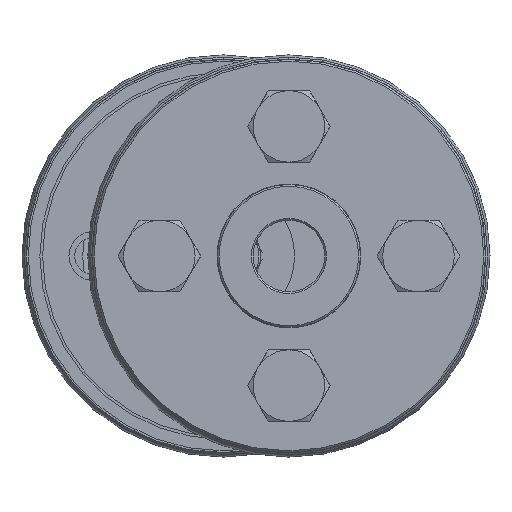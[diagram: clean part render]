
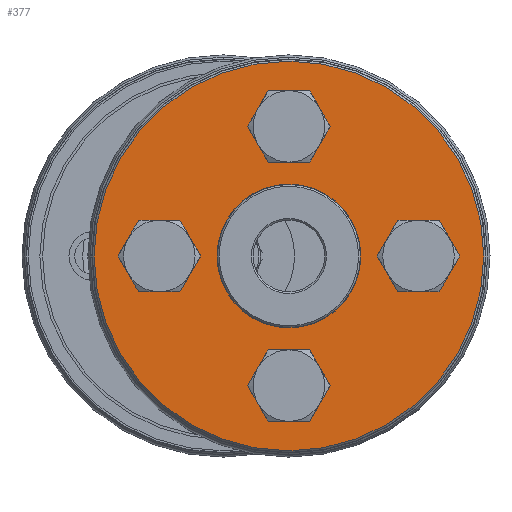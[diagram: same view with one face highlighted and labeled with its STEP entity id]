
A CAD part, left-side view. The second image highlights one B-rep face of the part: STEP entity #377.
In plain terms, the highlighted planar face has unit normal (-1, 0, 0).
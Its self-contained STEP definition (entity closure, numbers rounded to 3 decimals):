
#377 = ADVANCED_FACE( 'NONE', ( #565, #566, #567, #568, #569, #570 ), #571, .F. );
#565 = FACE_OUTER_BOUND( '', #832, .T. );
#566 = FACE_BOUND( '', #833, .T. );
#567 = FACE_BOUND( '', #834, .T. );
#568 = FACE_BOUND( '', #835, .T. );
#569 = FACE_BOUND( '', #836, .T. );
#570 = FACE_BOUND( '', #837, .T. );
#571 = PLANE( '', #838 );
#832 = EDGE_LOOP( '', ( #1123 ) );
#833 = EDGE_LOOP( '', ( #1124 ) );
#834 = EDGE_LOOP( '', ( #1125 ) );
#835 = EDGE_LOOP( '', ( #1126 ) );
#836 = EDGE_LOOP( '', ( #1127 ) );
#837 = EDGE_LOOP( '', ( #1128 ) );
#838 = AXIS2_PLACEMENT_3D( '', #1129, #1130, #1131 );
#1123 = ORIENTED_EDGE( '', *, *, #1605, .T. );
#1124 = ORIENTED_EDGE( '', *, *, #1608, .T. );
#1125 = ORIENTED_EDGE( '', *, *, #1609, .T. );
#1126 = ORIENTED_EDGE( '', *, *, #1610, .T. );
#1127 = ORIENTED_EDGE( '', *, *, #1611, .T. );
#1128 = ORIENTED_EDGE( '', *, *, #1612, .F. );
#1129 = CARTESIAN_POINT( '', ( 0., 8., 0. ) );
#1130 = DIRECTION( '', ( 1., 0., 0. ) );
#1131 = DIRECTION( '', ( 0., 1., 0. ) );
#1605 = EDGE_CURVE( 'NONE', #1765, #1765, #1766, .T. );
#1608 = EDGE_CURVE( 'NONE', #1771, #1771, #1772, .T. );
#1609 = EDGE_CURVE( 'NONE', #1773, #1773, #1774, .T. );
#1610 = EDGE_CURVE( 'NONE', #1775, #1775, #1776, .T. );
#1611 = EDGE_CURVE( 'NONE', #1777, #1777, #1778, .T. );
#1612 = EDGE_CURVE( 'NONE', #1779, #1779, #1780, .T. );
#1765 = VERTEX_POINT( '', #1951 );
#1766 = CIRCLE( '', #1952, 21.8 );
#1771 = VERTEX_POINT( '', #1957 );
#1772 = CIRCLE( '', #1958, 2.75 );
#1773 = VERTEX_POINT( '', #1959 );
#1774 = CIRCLE( '', #1960, 2.75 );
#1775 = VERTEX_POINT( '', #1961 );
#1776 = CIRCLE( '', #1962, 2.75 );
#1777 = VERTEX_POINT( '', #1963 );
#1778 = CIRCLE( '', #1964, 2.75 );
#1779 = VERTEX_POINT( '', #1965 );
#1780 = CIRCLE( '', #1966, 8. );
#1951 = CARTESIAN_POINT( '', ( 0., 0., -21.8 ) );
#1952 = AXIS2_PLACEMENT_3D( '', #2186, #2187, #2188 );
#1957 = CARTESIAN_POINT( '', ( 0., 0., 11.75 ) );
#1958 = AXIS2_PLACEMENT_3D( '', #2195, #2196, #2197 );
#1959 = CARTESIAN_POINT( '', ( 0., -14.5, -2.75 ) );
#1960 = AXIS2_PLACEMENT_3D( '', #2198, #2199, #2200 );
#1961 = CARTESIAN_POINT( '', ( 0., 0., -17.25 ) );
#1962 = AXIS2_PLACEMENT_3D( '', #2201, #2202, #2203 );
#1963 = CARTESIAN_POINT( '', ( 0., 14.5, -2.75 ) );
#1964 = AXIS2_PLACEMENT_3D( '', #2204, #2205, #2206 );
#1965 = CARTESIAN_POINT( '', ( 0., 0., 8. ) );
#1966 = AXIS2_PLACEMENT_3D( '', #2207, #2208, #2209 );
#2186 = CARTESIAN_POINT( '', ( 0., 0., 0. ) );
#2187 = DIRECTION( '', ( -1., 0., 0. ) );
#2188 = DIRECTION( '', ( 0., 0., -1. ) );
#2195 = CARTESIAN_POINT( '', ( 0., 0., 14.5 ) );
#2196 = DIRECTION( '', ( 1., 0., 0. ) );
#2197 = DIRECTION( '', ( 0., 0., -1. ) );
#2198 = CARTESIAN_POINT( '', ( 0., -14.5, 0. ) );
#2199 = DIRECTION( '', ( 1., 0., 0. ) );
#2200 = DIRECTION( '', ( 0., 0., -1. ) );
#2201 = CARTESIAN_POINT( '', ( 0., 0., -14.5 ) );
#2202 = DIRECTION( '', ( 1., 0., 0. ) );
#2203 = DIRECTION( '', ( 0., 0., -1. ) );
#2204 = CARTESIAN_POINT( '', ( 0., 14.5, 0. ) );
#2205 = DIRECTION( '', ( 1., 0., 0. ) );
#2206 = DIRECTION( '', ( 0., 0., -1. ) );
#2207 = CARTESIAN_POINT( '', ( 0., 0., 0. ) );
#2208 = DIRECTION( '', ( -1., 0., 0. ) );
#2209 = DIRECTION( '', ( 0., 0., 1. ) );
